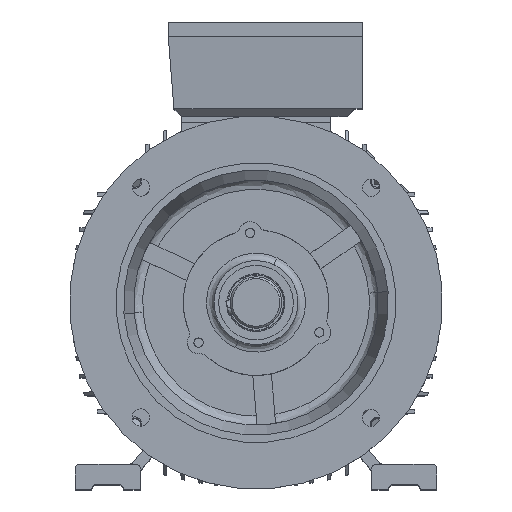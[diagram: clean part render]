
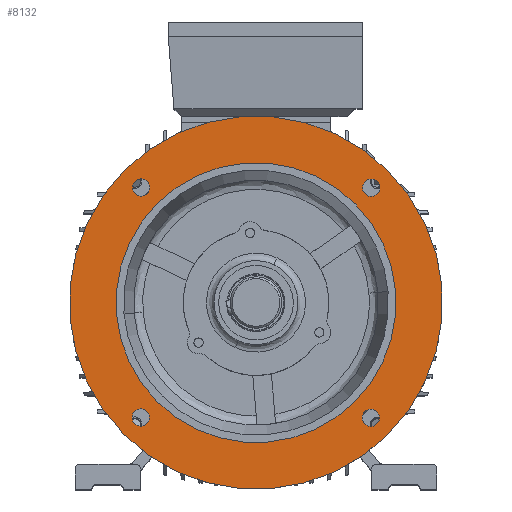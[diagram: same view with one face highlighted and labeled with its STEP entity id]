
A CAD part, top view. The second image highlights one B-rep face of the part: STEP entity #8132.
In plain terms, the highlighted planar face has unit normal (0, 0, 1) as drawn and (-1, 0, 0) by its records, which use the part's own axes.
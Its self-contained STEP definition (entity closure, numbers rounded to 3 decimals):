
#3797 = CIRCLE ( 'NONE', #33625, 150. ) ;
#3798 = CIRCLE ( 'NONE', #33630, 9.25 ) ;
#3800 = CIRCLE ( 'NONE', #33627, 9.25 ) ;
#3801 = CIRCLE ( 'NONE', #33628, 9.25 ) ;
#3802 = CIRCLE ( 'NONE', #33629, 9.25 ) ;
#3803 = CIRCLE ( 'NONE', #33631, 200. ) ;
#4264 = CIRCLE ( 'NONE', #33105, 9.25 ) ;
#4266 = CIRCLE ( 'NONE', #33101, 9.25 ) ;
#4281 = CIRCLE ( 'NONE', #33111, 200. ) ;
#4287 = CIRCLE ( 'NONE', #33115, 150. ) ;
#4938 = CARTESIAN_POINT ( 'NONE',  ( 5., 133.417, -121.496 ) ) ;
#4952 = CARTESIAN_POINT ( 'NONE',  ( 5., 0., -150. ) ) ;
#4961 = CARTESIAN_POINT ( 'NONE',  ( 5., -112.246, -124.167 ) ) ;
#5218 = CARTESIAN_POINT ( 'NONE',  ( 5., 0., 150. ) ) ;
#5259 = CARTESIAN_POINT ( 'NONE',  ( 5., -112.246, -142.667 ) ) ;
#5309 = CARTESIAN_POINT ( 'NONE',  ( 5., 112.246, 142.667 ) ) ;
#5437 = CARTESIAN_POINT ( 'NONE',  ( 5., 0., 200. ) ) ;
#5446 = CARTESIAN_POINT ( 'NONE',  ( 5., 0., -200. ) ) ;
#5646 = CARTESIAN_POINT ( 'NONE',  ( 5., 112.246, 124.167 ) ) ;
#5785 = CARTESIAN_POINT ( 'NONE',  ( 5., 133.417, -102.996 ) ) ;
#6035 = CARTESIAN_POINT ( 'NONE',  ( 5., -133.417, 102.996 ) ) ;
#6036 = CARTESIAN_POINT ( 'NONE',  ( 5., -133.417, 121.496 ) ) ;
#8132 = ADVANCED_FACE ( 'NONE', ( #22723, #22721, #22720, #22715, #22719, #22724 ), #32260, .F. ) ;
#9404 = EDGE_CURVE ( 'NONE', #13175, #12682, #34499, .T. ) ;
#9407 = EDGE_CURVE ( 'NONE', #12646, #14086, #34495, .T. ) ;
#12646 = VERTEX_POINT ( 'NONE', #4938 ) ;
#12671 = VERTEX_POINT ( 'NONE', #4952 ) ;
#12682 = VERTEX_POINT ( 'NONE', #4961 ) ;
#13106 = VERTEX_POINT ( 'NONE', #5218 ) ;
#13175 = VERTEX_POINT ( 'NONE', #5259 ) ;
#13257 = VERTEX_POINT ( 'NONE', #5309 ) ;
#13485 = VERTEX_POINT ( 'NONE', #5437 ) ;
#13486 = VERTEX_POINT ( 'NONE', #5446 ) ;
#13830 = VERTEX_POINT ( 'NONE', #5646 ) ;
#14086 = VERTEX_POINT ( 'NONE', #5785 ) ;
#14554 = VERTEX_POINT ( 'NONE', #6036 ) ;
#14559 = VERTEX_POINT ( 'NONE', #6035 ) ;
#15233 = ORIENTED_EDGE ( 'NONE', *, *, #15555, .F. ) ;
#15240 = ORIENTED_EDGE ( 'NONE', *, *, #17078, .F. ) ;
#15248 = ORIENTED_EDGE ( 'NONE', *, *, #17069, .F. ) ;
#15249 = ORIENTED_EDGE ( 'NONE', *, *, #15561, .F. ) ;
#15555 = EDGE_CURVE ( 'NONE', #12671, #13106, #3797, .T. ) ;
#15557 = EDGE_CURVE ( 'NONE', #14086, #12646, #3800, .T. ) ;
#15558 = EDGE_CURVE ( 'NONE', #12682, #13175, #3801, .T. ) ;
#15559 = EDGE_CURVE ( 'NONE', #14554, #14559, #3802, .T. ) ;
#15560 = EDGE_CURVE ( 'NONE', #13257, #13830, #3798, .T. ) ;
#15561 = EDGE_CURVE ( 'NONE', #13485, #13486, #3803, .T. ) ;
#15828 = ORIENTED_EDGE ( 'NONE', *, *, #17067, .F. ) ;
#15829 = ORIENTED_EDGE ( 'NONE', *, *, #15558, .F. ) ;
#15834 = ORIENTED_EDGE ( 'NONE', *, *, #9407, .F. ) ;
#15835 = ORIENTED_EDGE ( 'NONE', *, *, #9404, .F. ) ;
#15836 = ORIENTED_EDGE ( 'NONE', *, *, #17082, .F. ) ;
#15838 = ORIENTED_EDGE ( 'NONE', *, *, #15559, .F. ) ;
#15839 = ORIENTED_EDGE ( 'NONE', *, *, #15560, .F. ) ;
#15840 = ORIENTED_EDGE ( 'NONE', *, *, #15557, .F. ) ;
#16005 = EDGE_LOOP ( 'NONE', ( #15839, #15828 ) ) ;
#16006 = EDGE_LOOP ( 'NONE', ( #15829, #15835 ) ) ;
#16007 = EDGE_LOOP ( 'NONE', ( #15249, #15240 ) ) ;
#16030 = EDGE_LOOP ( 'NONE', ( #15836, #15233 ) ) ;
#16033 = EDGE_LOOP ( 'NONE', ( #15838, #15248 ) ) ;
#16034 = EDGE_LOOP ( 'NONE', ( #15840, #15834 ) ) ;
#17067 = EDGE_CURVE ( 'NONE', #13830, #13257, #4266, .T. ) ;
#17069 = EDGE_CURVE ( 'NONE', #14559, #14554, #4264, .T. ) ;
#17078 = EDGE_CURVE ( 'NONE', #13486, #13485, #4281, .T. ) ;
#17082 = EDGE_CURVE ( 'NONE', #13106, #12671, #4287, .T. ) ;
#22715 = FACE_BOUND ( 'NONE', #16005, .T. ) ;
#22719 = FACE_OUTER_BOUND ( 'NONE', #16007, .T. ) ;
#22720 = FACE_BOUND ( 'NONE', #16033, .T. ) ;
#22721 = FACE_BOUND ( 'NONE', #16006, .T. ) ;
#22723 = FACE_BOUND ( 'NONE', #16034, .T. ) ;
#22724 = FACE_BOUND ( 'NONE', #16030, .T. ) ;
#24234 = AXIS2_PLACEMENT_3D ( 'NONE', #32262, #32244, #32263 ) ;
#30129 = CARTESIAN_POINT ( 'NONE',  ( 5., 0., 0. ) ) ;
#30130 = DIRECTION ( 'NONE',  ( -1., 0., 0. ) ) ;
#30131 = DIRECTION ( 'NONE',  ( 0., 0., 1. ) ) ;
#30135 = CARTESIAN_POINT ( 'NONE',  ( 5., 133.417, -112.246 ) ) ;
#30136 = DIRECTION ( 'NONE',  ( -1., 0., 0. ) ) ;
#30137 = DIRECTION ( 'NONE',  ( 0., 1., 0. ) ) ;
#30138 = CARTESIAN_POINT ( 'NONE',  ( 5., -112.246, -133.417 ) ) ;
#30139 = DIRECTION ( 'NONE',  ( -1., 0., 0. ) ) ;
#30140 = DIRECTION ( 'NONE',  ( 0., 0., -1. ) ) ;
#30141 = CARTESIAN_POINT ( 'NONE',  ( 5., -133.417, 112.246 ) ) ;
#30142 = DIRECTION ( 'NONE',  ( -1., 0., 0. ) ) ;
#30143 = DIRECTION ( 'NONE',  ( 0., -1., 0. ) ) ;
#30144 = CARTESIAN_POINT ( 'NONE',  ( 5., 112.246, 133.417 ) ) ;
#30145 = DIRECTION ( 'NONE',  ( -1., 0., 0. ) ) ;
#30146 = DIRECTION ( 'NONE',  ( 0., 0., 1. ) ) ;
#30147 = CARTESIAN_POINT ( 'NONE',  ( 5., 0., 0. ) ) ;
#30148 = DIRECTION ( 'NONE',  ( 1., 0., 0. ) ) ;
#30149 = DIRECTION ( 'NONE',  ( 0., 0., 1. ) ) ;
#31274 = CARTESIAN_POINT ( 'NONE',  ( 5., 112.246, 133.417 ) ) ;
#31275 = DIRECTION ( 'NONE',  ( -1., 0., 0. ) ) ;
#31276 = DIRECTION ( 'NONE',  ( 0., 0., 1. ) ) ;
#31281 = CARTESIAN_POINT ( 'NONE',  ( 5., -133.417, 112.246 ) ) ;
#31282 = DIRECTION ( 'NONE',  ( -1., 0., 0. ) ) ;
#31283 = DIRECTION ( 'NONE',  ( 0., -1., 0. ) ) ;
#31306 = CARTESIAN_POINT ( 'NONE',  ( 5., 0., 0. ) ) ;
#31307 = DIRECTION ( 'NONE',  ( 1., 0., 0. ) ) ;
#31308 = DIRECTION ( 'NONE',  ( 0., 0., 1. ) ) ;
#31314 = CARTESIAN_POINT ( 'NONE',  ( 5., 0., 0. ) ) ;
#31315 = DIRECTION ( 'NONE',  ( -1., 0., 0. ) ) ;
#31316 = DIRECTION ( 'NONE',  ( 0., 0., 1. ) ) ;
#32244 = DIRECTION ( 'NONE',  ( 1., 0., 0. ) ) ;
#32260 = PLANE ( 'NONE',  #24234 ) ;
#32262 = CARTESIAN_POINT ( 'NONE',  ( 5., 200., 0. ) ) ;
#32263 = DIRECTION ( 'NONE',  ( 0., 0., -1. ) ) ;
#33029 = AXIS2_PLACEMENT_3D ( 'NONE', #37267, #37268, #37269 ) ;
#33031 = AXIS2_PLACEMENT_3D ( 'NONE', #37276, #37277, #37278 ) ;
#33101 = AXIS2_PLACEMENT_3D ( 'NONE', #31274, #31275, #31276 ) ;
#33105 = AXIS2_PLACEMENT_3D ( 'NONE', #31281, #31282, #31283 ) ;
#33111 = AXIS2_PLACEMENT_3D ( 'NONE', #31306, #31307, #31308 ) ;
#33115 = AXIS2_PLACEMENT_3D ( 'NONE', #31314, #31315, #31316 ) ;
#33625 = AXIS2_PLACEMENT_3D ( 'NONE', #30129, #30130, #30131 ) ;
#33627 = AXIS2_PLACEMENT_3D ( 'NONE', #30135, #30136, #30137 ) ;
#33628 = AXIS2_PLACEMENT_3D ( 'NONE', #30138, #30139, #30140 ) ;
#33629 = AXIS2_PLACEMENT_3D ( 'NONE', #30141, #30142, #30143 ) ;
#33630 = AXIS2_PLACEMENT_3D ( 'NONE', #30144, #30145, #30146 ) ;
#33631 = AXIS2_PLACEMENT_3D ( 'NONE', #30147, #30148, #30149 ) ;
#34495 = CIRCLE ( 'NONE', #33031, 9.25 ) ;
#34499 = CIRCLE ( 'NONE', #33029, 9.25 ) ;
#37267 = CARTESIAN_POINT ( 'NONE',  ( 5., -112.246, -133.417 ) ) ;
#37268 = DIRECTION ( 'NONE',  ( -1., 0., 0. ) ) ;
#37269 = DIRECTION ( 'NONE',  ( 0., 0., -1. ) ) ;
#37276 = CARTESIAN_POINT ( 'NONE',  ( 5., 133.417, -112.246 ) ) ;
#37277 = DIRECTION ( 'NONE',  ( -1., 0., 0. ) ) ;
#37278 = DIRECTION ( 'NONE',  ( 0., 1., 0. ) ) ;
